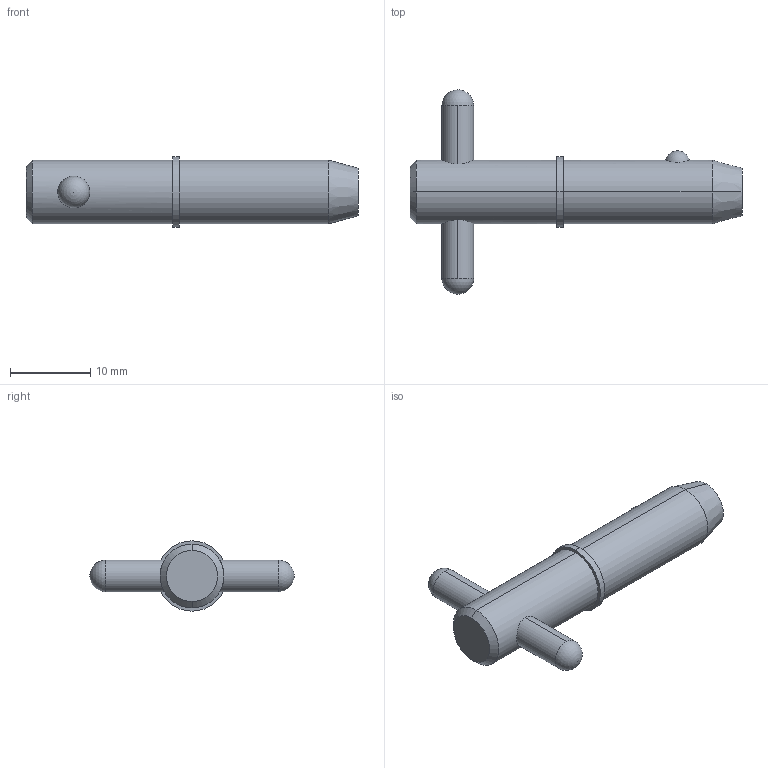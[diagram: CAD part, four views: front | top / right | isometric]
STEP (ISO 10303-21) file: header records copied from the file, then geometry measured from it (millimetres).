
FILE_DESCRIPTION (( 'STEP AP203' ), '1' );
FILE_NAME ('33018.W3105.step', '2024-11-19T17:09:05', ( '' ), ( '' ), 'SwSTEP 2.0', 'SolidWorks 2019', '' );
FILE_SCHEMA (( 'CONFIG_CONTROL_DESIGN' ));
Length unit declared in the file: millimetre
Products named in the file (3): 33018.W3105; Part1_33018.W3105; Part2_33018.W3105
Assembly tree (2 placements, depth 2):
  33018.W3105
    Part1_33018.W3105
    Part2_33018.W3105
Bounding box: 41.28 x 25.4 x 8.73 mm (x, y, z)
Volume: 2210.1 mm3; surface area: 1496.8 mm2
Topology: 2 solids, 2 shells, 22 faces, 47 edges, 30 vertices
Faces by surface type: cylinder 10, sphere 4, cone 4, plane 4
Entity records: 1013 total; most frequent: CARTESIAN_POINT 256, DIRECTION 110, ORIENTED_EDGE 82, AXIS2_PLACEMENT_3D 48, EDGE_CURVE 41, EDGE_LOOP 27, VERTEX_POINT 26, PERSON_AND_ORGANIZATION 26
